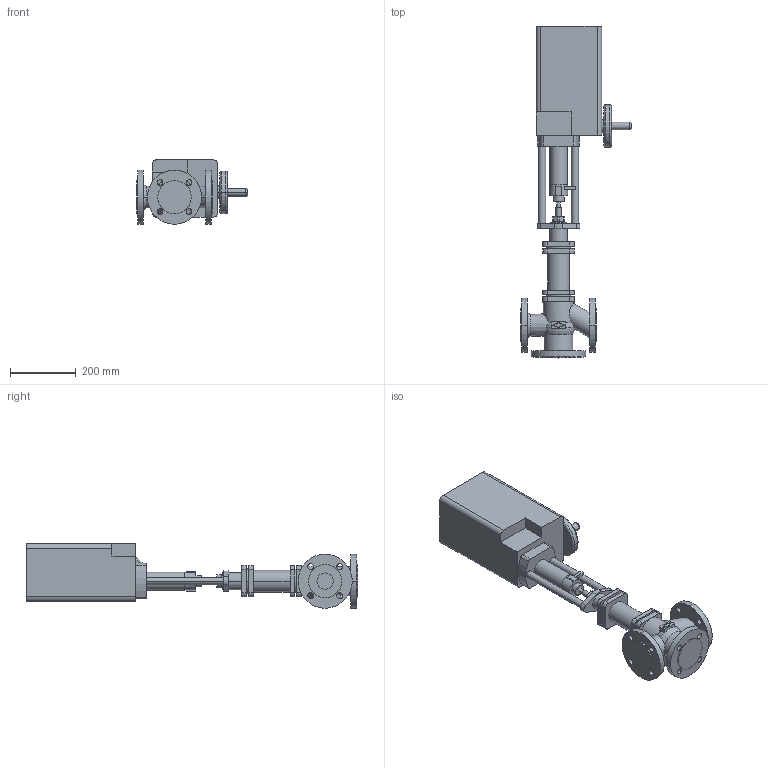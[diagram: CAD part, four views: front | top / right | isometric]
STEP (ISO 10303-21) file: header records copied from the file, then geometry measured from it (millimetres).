
FILE_DESCRIPTION(('OneSpaceDesigner STEP Export'),'2;1');
FILE_NAME('c000002473.stp','2006-09-21T12:01:28',(''),(''),'OneSpace Designer STEP processor for AP214 (Solid Model)','OneSpace Designer 13.20A 18-Aug-2005 (C) CoCreate Software GmbH','');
FILE_SCHEMA(('AUTOMOTIVE_DESIGN { 1 0 10303 214 1 1 1 1 }'));
Length unit declared in the file: millimetre
Products named in the file (2): 1; 2
Bounding box: 336.6 x 1012 x 196.5 mm (x, y, z)
Volume: 16482191.7 mm3; surface area: 755949.5 mm2
Topology: 2 solids, 2 shells, 238 faces, 586 edges, 387 vertices
Faces by surface type: cylinder 116, plane 106, torus 12, cone 4
Entity records: 6905 total; most frequent: CARTESIAN_POINT 1510, ORIENTED_EDGE 1172, DIRECTION 1027, EDGE_CURVE 586, VERTEX_POINT 387, AXIS2_PLACEMENT_3D 364, VECTOR 299, LINE 299
